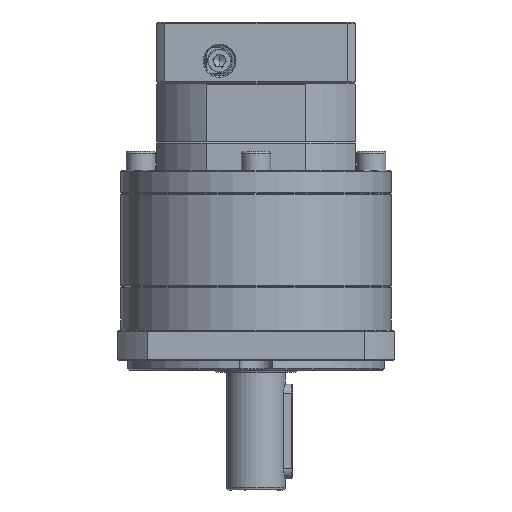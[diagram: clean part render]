
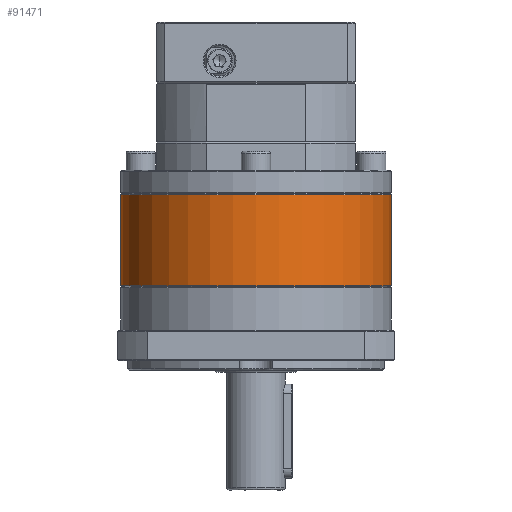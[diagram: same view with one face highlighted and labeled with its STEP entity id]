
A CAD part, front view. The second image highlights one B-rep face of the part: STEP entity #91471.
In plain terms, the highlighted cylindrical face has radius 57.5 mm (diameter 115 mm), a partial arc.
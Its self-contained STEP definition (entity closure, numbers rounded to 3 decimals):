
#2850 = VERTEX_POINT ( 'NONE', #96192 ) ;
#3951 = EDGE_CURVE ( 'NONE', #72663, #77855, #97223, .T. ) ;
#4366 = DIRECTION ( 'NONE',  ( -1., 0., 0. ) ) ;
#12064 = CARTESIAN_POINT ( 'NONE',  ( 71.11, 73.645, -124.317 ) ) ;
#23400 = CYLINDRICAL_SURFACE ( 'NONE', #76446, 57.5 ) ;
#29287 = CIRCLE ( 'NONE', #109371, 57.5 ) ;
#31105 = CARTESIAN_POINT ( 'NONE',  ( 13.61, 73.645, -85.605 ) ) ;
#32258 = DIRECTION ( 'NONE',  ( 0., 0., -1. ) ) ;
#36972 = EDGE_LOOP ( 'NONE', ( #75043, #77631, #59098, #48541 ) ) ;
#39163 = CARTESIAN_POINT ( 'NONE',  ( 71.11, 73.645, -85.105 ) ) ;
#46223 = DIRECTION ( 'NONE',  ( 0., 0., 1. ) ) ;
#48541 = ORIENTED_EDGE ( 'NONE', *, *, #62497, .T. ) ;
#48563 = CARTESIAN_POINT ( 'NONE',  ( 128.61, 73.645, -85.605 ) ) ;
#49956 = VECTOR ( 'NONE', #54400, 1000. ) ;
#54400 = DIRECTION ( 'NONE',  ( 0., 0., -1. ) ) ;
#55504 = DIRECTION ( 'NONE',  ( -1., 0., 0. ) ) ;
#58706 = CARTESIAN_POINT ( 'NONE',  ( 128.61, 73.645, -85.105 ) ) ;
#59098 = ORIENTED_EDGE ( 'NONE', *, *, #3951, .T. ) ;
#62497 = EDGE_CURVE ( 'NONE', #77855, #2850, #101589, .T. ) ;
#72663 = VERTEX_POINT ( 'NONE', #31105 ) ;
#72735 = EDGE_CURVE ( 'NONE', #83195, #2850, #90116, .T. ) ;
#75043 = ORIENTED_EDGE ( 'NONE', *, *, #72735, .F. ) ;
#76446 = AXIS2_PLACEMENT_3D ( 'NONE', #39163, #92801, #4366 ) ;
#77631 = ORIENTED_EDGE ( 'NONE', *, *, #107708, .T. ) ;
#77855 = VERTEX_POINT ( 'NONE', #98443 ) ;
#78303 = DIRECTION ( 'NONE',  ( 0., 0., -1. ) ) ;
#78663 = CARTESIAN_POINT ( 'NONE',  ( 71.11, 73.645, -85.605 ) ) ;
#80425 = CARTESIAN_POINT ( 'NONE',  ( 13.61, 73.645, -85.105 ) ) ;
#83195 = VERTEX_POINT ( 'NONE', #48563 ) ;
#88776 = VECTOR ( 'NONE', #32258, 1000. ) ;
#90116 = LINE ( 'NONE', #58706, #88776 ) ;
#91471 = ADVANCED_FACE ( 'NONE', ( #91482 ), #23400, .T. ) ;
#91482 = FACE_OUTER_BOUND ( 'NONE', #36972, .T. ) ;
#92801 = DIRECTION ( 'NONE',  ( 0., 0., -1. ) ) ;
#96192 = CARTESIAN_POINT ( 'NONE',  ( 128.61, 73.645, -124.317 ) ) ;
#97223 = LINE ( 'NONE', #80425, #49956 ) ;
#98443 = CARTESIAN_POINT ( 'NONE',  ( 13.61, 73.645, -124.317 ) ) ;
#101589 = CIRCLE ( 'NONE', #107777, 57.5 ) ;
#104024 = DIRECTION ( 'NONE',  ( -1., 0., 0. ) ) ;
#107708 = EDGE_CURVE ( 'NONE', #83195, #72663, #29287, .T. ) ;
#107777 = AXIS2_PLACEMENT_3D ( 'NONE', #12064, #46223, #55504 ) ;
#109371 = AXIS2_PLACEMENT_3D ( 'NONE', #78663, #78303, #104024 ) ;
